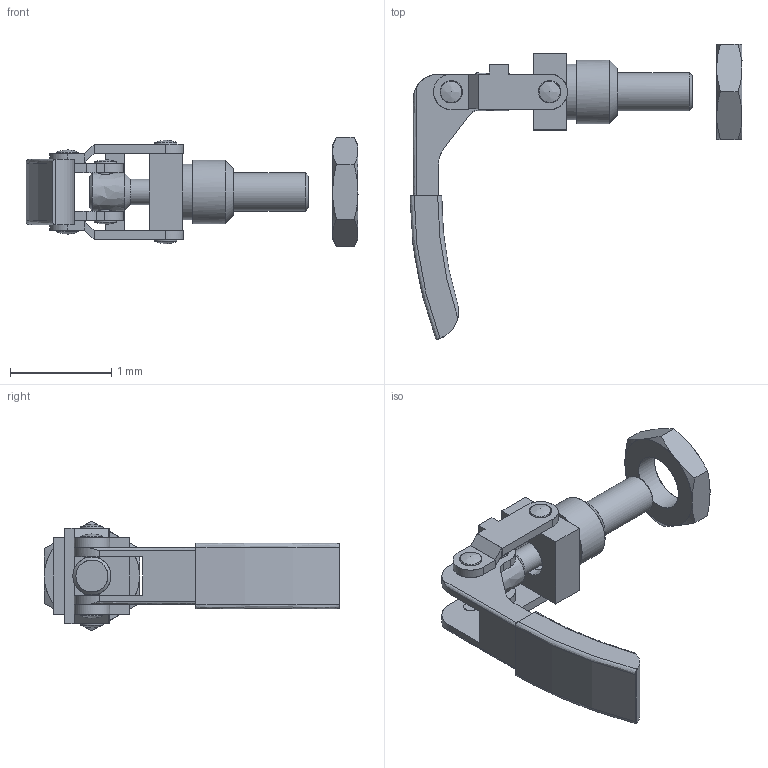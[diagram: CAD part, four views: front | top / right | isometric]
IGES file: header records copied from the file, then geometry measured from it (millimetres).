
Start section:  Autodesk DirectConnect version 7.0.27.0 ---- IGES version 5.3
Global section: file name: C:\Users\Nick\Desktop\PHL-253\3D\phl-253.igs; native system: Autodesk DirectConnect 7.0.27.0; preprocessor: 7.0.27.0; author: Nick; organization: Unknown; date: 20150519.143822; units: millimetre
Bounding box: 3.27 x 2.91 x 1.08 mm (x, y, z)
Surface area: 22.7 mm2 (no closed solid volume)
Topology: 0 solids, 0 shells, 173 faces, 1196 edges, 1185 vertices
Faces by surface type: bspline 173
